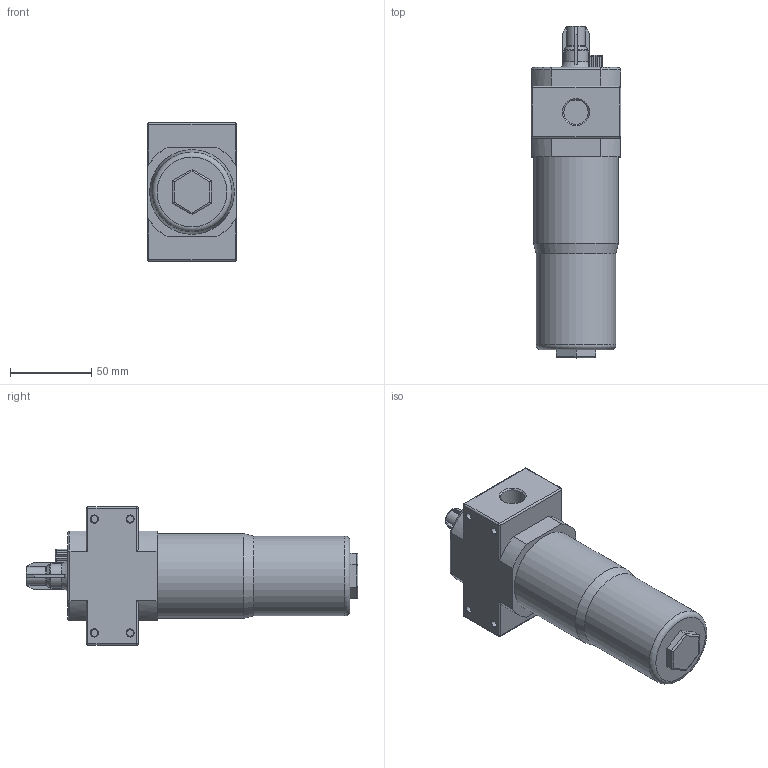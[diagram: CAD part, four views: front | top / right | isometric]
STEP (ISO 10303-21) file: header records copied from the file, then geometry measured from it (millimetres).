
FILE_DESCRIPTION(/* description */ ('STEP AP214'),/* implementation_level */ '2;1');
FILE_NAME(/* name */ '90-OC-38.stp',/* time_stamp */ '2026-01-20T15:16:18+01:00',/* author */ ('Tschernatsch'),/* organization */ ('CADENAS'),/* preprocessor_version */ 'ST-DEVELOPER v20',/* originating_system */ 'Autodesk Inventor 2024',/* authorisation */ ' ');
FILE_SCHEMA (('AUTOMOTIVE_DESIGN { 1 0 10303 214 3 1 1 }'));
Length unit declared in the file: millimetre
Products named in the file (1): LOE-G3/8-MIDI_____
Bounding box: 55 x 204 x 85 mm (x, y, z)
Volume: 450939.3 mm3; surface area: 44488.3 mm2
Topology: 1 solids, 1 shells, 182 faces, 444 edges, 266 vertices
Faces by surface type: cylinder 74, plane 66, torus 22, cone 12, sphere 8
Full cylindrical faces by diameter (mm): 4.134 x4, 14.95 x2, 49 x1, 52 x1
Entity records: 5646 total; most frequent: CARTESIAN_POINT 1395, DIRECTION 892, ORIENTED_EDGE 872, EDGE_CURVE 436, AXIS2_PLACEMENT_3D 334, VERTEX_POINT 266, LINE 224, VECTOR 224
